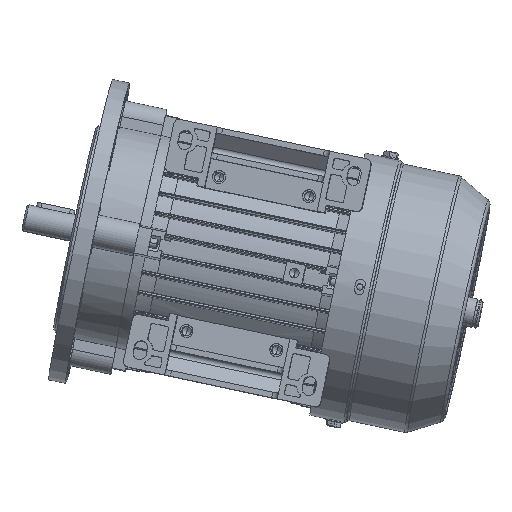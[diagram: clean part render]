
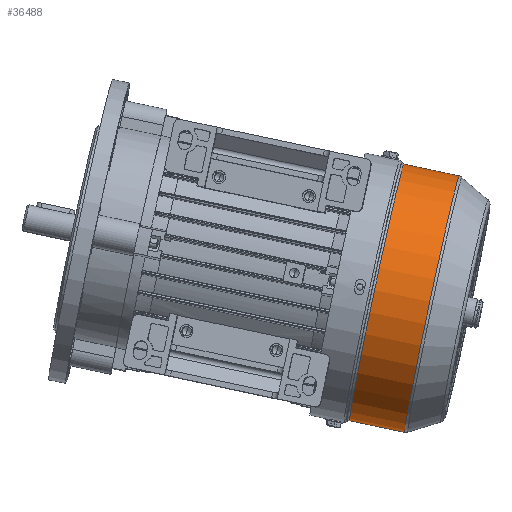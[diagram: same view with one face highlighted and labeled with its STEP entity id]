
A CAD part, front view. The second image highlights one B-rep face of the part: STEP entity #36488.
In plain terms, the highlighted cylindrical face has radius 68.3 mm (diameter 136.6 mm), a partial arc.
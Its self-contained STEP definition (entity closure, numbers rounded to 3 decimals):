
#433 = LINE ( 'NONE', #9809, #28140 ) ;
#2946 = CARTESIAN_POINT ( 'NONE',  ( 17.775, 0., -68.3 ) ) ;
#3383 = DIRECTION ( 'NONE',  ( -1., 0., 0. ) ) ;
#4558 = EDGE_LOOP ( 'NONE', ( #32155, #15369, #7246, #45249 ) ) ;
#7246 = ORIENTED_EDGE ( 'NONE', *, *, #83256, .T. ) ;
#9809 = CARTESIAN_POINT ( 'NONE',  ( 0., 0., -68.3 ) ) ;
#15369 = ORIENTED_EDGE ( 'NONE', *, *, #49602, .T. ) ;
#19619 = VERTEX_POINT ( 'NONE', #44125 ) ;
#25937 = AXIS2_PLACEMENT_3D ( 'NONE', #97752, #80944, #56407 ) ;
#28140 = VECTOR ( 'NONE', #88164, 1000. ) ;
#29087 = FACE_OUTER_BOUND ( 'NONE', #4558, .T. ) ;
#32141 = DIRECTION ( 'NONE',  ( -1., 0., 0. ) ) ;
#32155 = ORIENTED_EDGE ( 'NONE', *, *, #55641, .F. ) ;
#34130 = LINE ( 'NONE', #81191, #79087 ) ;
#34959 = CARTESIAN_POINT ( 'NONE',  ( 0., 0., 0. ) ) ;
#36488 = ADVANCED_FACE ( 'NONE', ( #29087 ), #89138, .T. ) ;
#44125 = CARTESIAN_POINT ( 'NONE',  ( 17.775, 0., 68.3 ) ) ;
#45249 = ORIENTED_EDGE ( 'NONE', *, *, #88703, .F. ) ;
#49602 = EDGE_CURVE ( 'NONE', #96279, #100151, #84124, .T. ) ;
#55641 = EDGE_CURVE ( 'NONE', #96279, #63997, #433, .T. ) ;
#56407 = DIRECTION ( 'NONE',  ( 0., 0., 1. ) ) ;
#59207 = AXIS2_PLACEMENT_3D ( 'NONE', #73378, #32141, #65012 ) ;
#59695 = DIRECTION ( 'NONE',  ( 0., 0., 1. ) ) ;
#63997 = VERTEX_POINT ( 'NONE', #2946 ) ;
#65012 = DIRECTION ( 'NONE',  ( 0., 0., 1. ) ) ;
#73378 = CARTESIAN_POINT ( 'NONE',  ( 17.775, 0., 0. ) ) ;
#73751 = CARTESIAN_POINT ( 'NONE',  ( 47.197, 0., 68.3 ) ) ;
#79087 = VECTOR ( 'NONE', #89228, 1000. ) ;
#80944 = DIRECTION ( 'NONE',  ( -1., 0., 0. ) ) ;
#81191 = CARTESIAN_POINT ( 'NONE',  ( 0., 0., 68.3 ) ) ;
#81512 = AXIS2_PLACEMENT_3D ( 'NONE', #34959, #3383, #59695 ) ;
#82713 = CARTESIAN_POINT ( 'NONE',  ( 47.197, 0., -68.3 ) ) ;
#83256 = EDGE_CURVE ( 'NONE', #100151, #19619, #34130, .T. ) ;
#84124 = CIRCLE ( 'NONE', #25937, 68.3 ) ;
#88164 = DIRECTION ( 'NONE',  ( -1., 0., 0. ) ) ;
#88703 = EDGE_CURVE ( 'NONE', #63997, #19619, #95814, .T. ) ;
#89138 = CYLINDRICAL_SURFACE ( 'NONE', #81512, 68.3 ) ;
#89228 = DIRECTION ( 'NONE',  ( -1., 0., 0. ) ) ;
#95814 = CIRCLE ( 'NONE', #59207, 68.3 ) ;
#96279 = VERTEX_POINT ( 'NONE', #82713 ) ;
#97752 = CARTESIAN_POINT ( 'NONE',  ( 47.197, 0., 0. ) ) ;
#100151 = VERTEX_POINT ( 'NONE', #73751 ) ;
